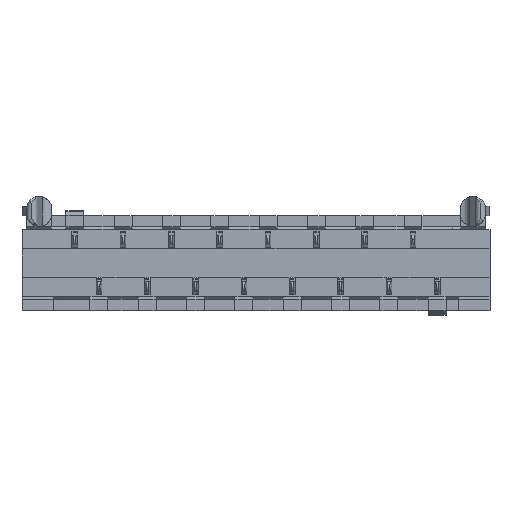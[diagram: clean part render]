
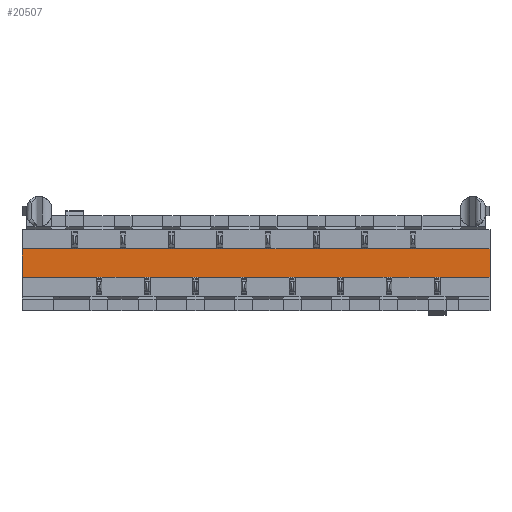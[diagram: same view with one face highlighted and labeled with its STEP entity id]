
A CAD part, front view. The second image highlights one B-rep face of the part: STEP entity #20507.
In plain terms, the highlighted planar face has unit normal (0, -1, 0).
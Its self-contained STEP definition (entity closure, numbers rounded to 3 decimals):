
#3999=DIRECTION('',(0.,0.,1.));
#4000=VECTOR('',#3999,1.5);
#4001=CARTESIAN_POINT('',(-12.3,-1.,-0.75));
#4002=LINE('',#4001,#4000);
#5942=DIRECTION('',(-1.,0.,0.));
#5943=VECTOR('',#5942,24.6);
#5944=CARTESIAN_POINT('',(12.3,-1.,-0.75));
#5945=LINE('',#5944,#5943);
#6786=DIRECTION('',(-1.,0.,0.));
#6787=VECTOR('',#6786,24.6);
#6788=CARTESIAN_POINT('',(12.3,-1.,0.75));
#6789=LINE('',#6788,#6787);
#6790=DIRECTION('',(0.,0.,1.));
#6791=VECTOR('',#6790,1.5);
#6792=CARTESIAN_POINT('',(12.3,-1.,-0.75));
#6793=LINE('',#6792,#6791);
#13122=CARTESIAN_POINT('',(12.3,-1.,-0.75));
#13123=CARTESIAN_POINT('',(-12.3,-1.,-0.75));
#13124=VERTEX_POINT('',#13122);
#13125=VERTEX_POINT('',#13123);
#13978=CARTESIAN_POINT('',(-12.3,-1.,0.75));
#13980=VERTEX_POINT('',#13978);
#14196=CARTESIAN_POINT('',(12.3,-1.,0.75));
#14198=VERTEX_POINT('',#14196);
#20495=CARTESIAN_POINT('',(-12.05,-1.,2.5));
#20496=DIRECTION('',(0.,1.,0.));
#20497=DIRECTION('',(0.,0.,1.));
#20498=AXIS2_PLACEMENT_3D('',#20495,#20496,#20497);
#20499=PLANE('',#20498);
#20500=ORIENTED_EDGE('',*,*,#19372,.T.);
#20501=ORIENTED_EDGE('',*,*,#17411,.T.);
#20503=ORIENTED_EDGE('',*,*,#20502,.F.);
#20504=ORIENTED_EDGE('',*,*,#19306,.F.);
#20505=EDGE_LOOP('',(#20500,#20501,#20503,#20504));
#20506=FACE_OUTER_BOUND('',#20505,.F.);
#20507=ADVANCED_FACE('',(#20506),#20499,.F.);
#17411=EDGE_CURVE('',#13125,#13980,#4002,.T.);
#19306=EDGE_CURVE('',#13124,#14198,#6793,.T.);
#19372=EDGE_CURVE('',#13124,#13125,#5945,.T.);
#20502=EDGE_CURVE('',#14198,#13980,#6789,.T.);
